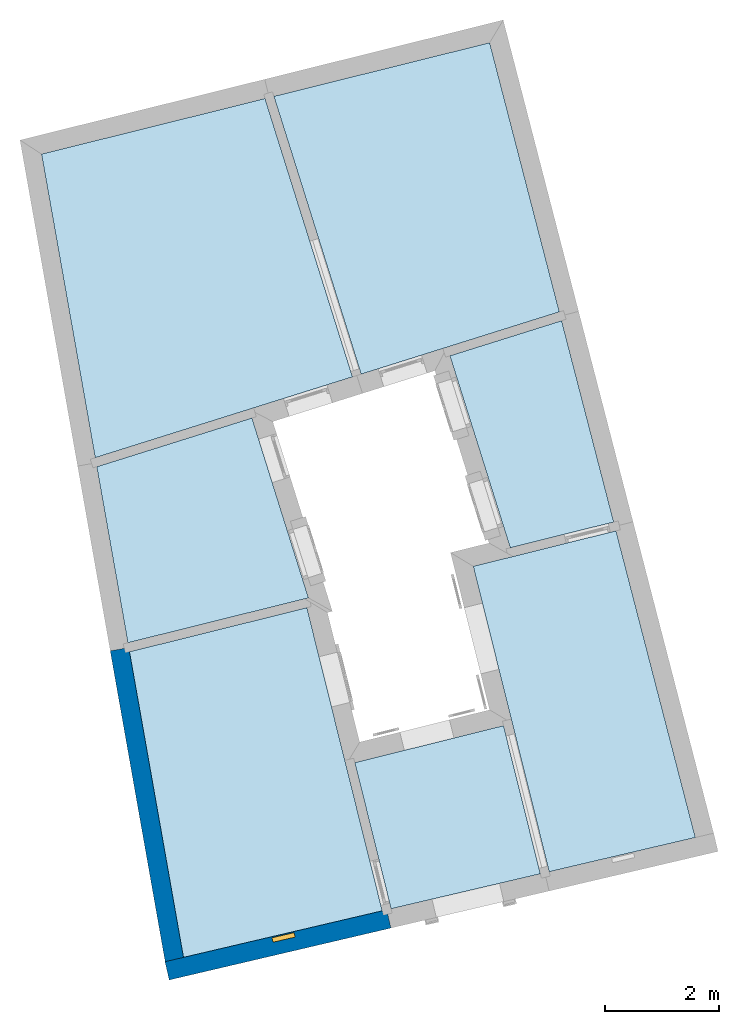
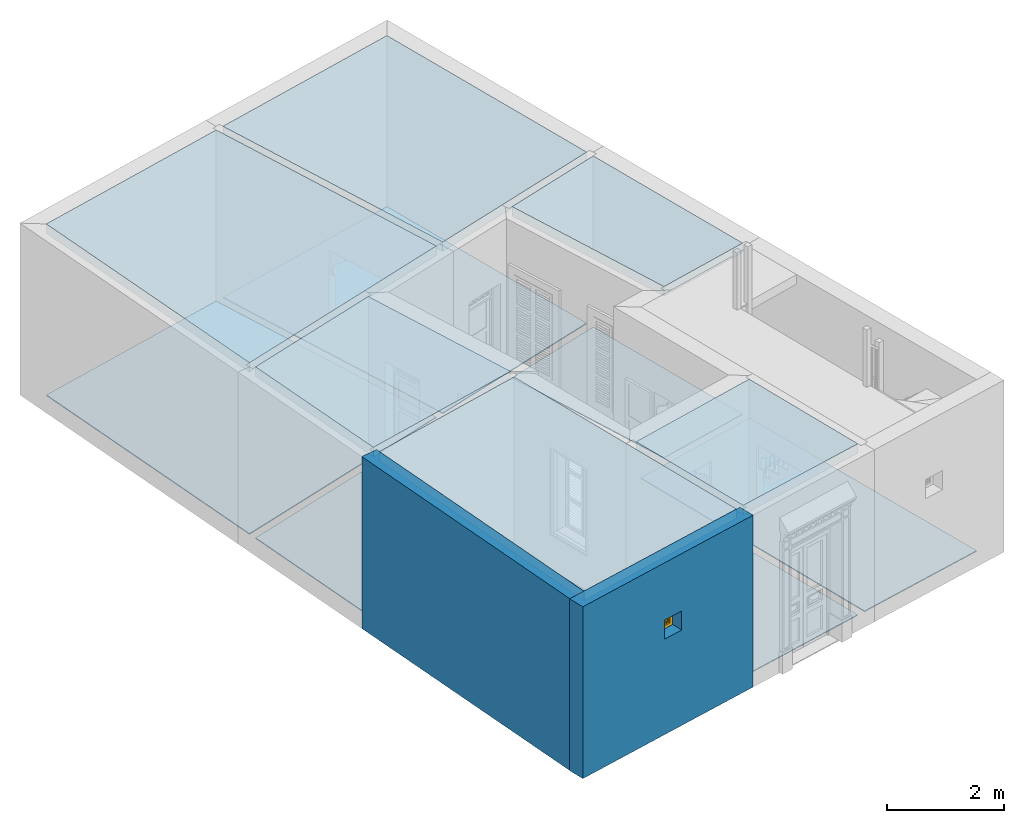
# One storey, part 1 of 14: 13 slabs, 2 walls, 1 window, 1 opening.
"""IFC4 building model written with IfcOpenShell, lengths in metres."""

import ifcopenshell
import ifcopenshell.guid

model = None  # the IFC model being written
_history = None  # IfcOwnerHistory: only IFC2X3 demands one
_inside = {}  # id of a spatial element -> (the spatial element, [elements in it])
_under = {}  # id of a project, library or spatial element -> (it, [spatial elements below it])
_declared = {}  # id of a project -> (the project, [libraries it declares])
_typed = {}  # id of a type object -> (the type object, [elements of that type])
_made_of = {}  # id of a material, layer set ... -> (it, [elements and type objects made of it])


def new_model(schema):
    """Start an empty IFC model of exactly this schema.

    Asked for "IFC4X3", IfcOpenShell would pick the latest addendum, in which some entities
    have other attributes; the version numbers below select the first issue.
    IFC2X3 requires an IfcOwnerHistory on every rooted entity: one is made here for all.
    """
    global model, _history
    if schema == "IFC4X3":
        model = ifcopenshell.file(schema_version=(4, 3, 0, 0))
    else:
        model = ifcopenshell.file(schema=schema)
    _inside.clear()
    _under.clear()
    _declared.clear()
    _typed.clear()
    _made_of.clear()
    _history = None
    if model.schema == "IFC2X3":
        org = make("IfcOrganization", Name="unknown")
        user = make(
            "IfcPersonAndOrganization",
            ThePerson=make("IfcPerson", FamilyName="unknown"),
            TheOrganization=org,
        )
        app = make(
            "IfcApplication",
            ApplicationDeveloper=org,
            Version="unknown",
            ApplicationFullName="unknown",
            ApplicationIdentifier="unknown",
        )
        _history = make(
            "IfcOwnerHistory",
            OwningUser=user,
            OwningApplication=app,
            ChangeAction="ADDED",
            CreationDate=0,
        )
    return model


def make(cls, **values):
    """One entity of the class cls with the attributes given. An attribute that is None is left unset."""
    return model.create_entity(
        cls, **{name: value for name, value in values.items() if value is not None}
    )


def rooted(cls, **values):
    """An entity with a GlobalId (a new one), such as an element, a storey or a relation."""
    return make(cls, GlobalId=ifcopenshell.guid.new(), OwnerHistory=_history, **values)


def si_unit(unit_type, name, prefix=None):
    """IfcSIUnit, for example si_unit("LENGTHUNIT", "METRE", prefix="MILLI")."""
    return make("IfcSIUnit", UnitType=unit_type, Prefix=prefix, Name=name)


def assignment(units):
    """IfcUnitAssignment: the units of a project."""
    return None if units is None else make("IfcUnitAssignment", Units=units)


def point(xyz):
    """IfcCartesianPoint."""
    return None if xyz is None else make("IfcCartesianPoint", Coordinates=xyz)


def direction(xyz):
    """IfcDirection."""
    return None if xyz is None else make("IfcDirection", DirectionRatios=xyz)


def frame(location, z_axis=None, x_axis=None):
    """IfcAxis2Placement3D, a coordinate frame: its origin and axes. An axis left out is left unset."""
    return make(
        "IfcAxis2Placement3D",
        Location=point(location),
        Axis=direction(z_axis),
        RefDirection=direction(x_axis),
    )


def origin():
    """The frame at (0, 0, 0) with its axes left unset."""
    return frame((0.0, 0.0, 0.0))


def origin_with_axes():
    """The frame at (0, 0, 0) with the z axis (0, 0, 1) and the x axis (1, 0, 0) written out."""
    return frame((0.0, 0.0, 0.0), z_axis=(0.0, 0.0, 1.0), x_axis=(1.0, 0.0, 0.0))


def place(relative_to, where):
    """IfcLocalPlacement: puts the frame where relative to a parent placement (None: the world)."""
    return make(
        "IfcLocalPlacement", PlacementRelTo=relative_to, RelativePlacement=where
    )


def context(
    kind, dimensions, precision=None, world=None, true_north=None, identifier=None
):
    """IfcGeometricRepresentationContext, for example the 3D "Model" context."""
    return make(
        "IfcGeometricRepresentationContext",
        ContextIdentifier=identifier,
        ContextType=kind,
        CoordinateSpaceDimension=dimensions,
        Precision=precision,
        WorldCoordinateSystem=world,
        TrueNorth=true_north,
    )


def subcontext(parent, identifier, kind, view, scale=None):
    """IfcGeometricRepresentationSubContext, for example "Body" below "Model"."""
    return make(
        "IfcGeometricRepresentationSubContext",
        ContextIdentifier=identifier,
        ContextType=kind,
        ParentContext=parent,
        TargetScale=scale,
        TargetView=view,
    )


def project(units=None, contexts=None):
    """IfcProject with its units and contexts."""
    return rooted(
        "IfcProject",
        Name="project",
        RepresentationContexts=contexts,
        UnitsInContext=assignment(units),
    )


def spatial(cls, under=None, at=None, **own):
    """A site, building, storey or space (cls), placed at a placement, below another one or the project."""
    s = rooted(cls, ObjectPlacement=at, **own)
    if under is not None:
        _under.setdefault(under.id(), (under, []))[1].append(s)
    return s


def polyline(points):
    """IfcPolyline through the points."""
    return make("IfcPolyline", Points=[point(p) for p in points])


def outline(outer, holes=None, kind="AREA"):
    """IfcArbitraryClosedProfileDef: a profile drawn as a closed curve; with holes, ...WithVoids."""
    if holes is None:
        return make("IfcArbitraryClosedProfileDef", ProfileType=kind, OuterCurve=outer)
    return make(
        "IfcArbitraryProfileDefWithVoids",
        ProfileType=kind,
        OuterCurve=outer,
        InnerCurves=holes,
    )


def extrude(swept, where, along, depth):
    """IfcExtrudedAreaSolid: the profile swept, set in the frame where, extruded along a direction by depth."""
    return make(
        "IfcExtrudedAreaSolid",
        SweptArea=swept,
        Position=where,
        ExtrudedDirection=direction(along),
        Depth=depth,
    )


def faces_of(points, faces, orient=None, outer=None):
    """IfcFace entities. A face is a list of loops; a loop is a list of indices into points, from 0.

    orient and outer hold one flag for each loop. By default every Orientation is true, the
    first loop of a face is its IfcFaceOuterBound and the others are IfcFaceBound.
    """
    made = []
    for i, loops in enumerate(faces):
        bounds = []
        for j, loop in enumerate(loops):
            is_outer = j == 0 if outer is None else outer[i][j]
            bounds.append(
                make(
                    "IfcFaceOuterBound" if is_outer else "IfcFaceBound",
                    Bound=make("IfcPolyLoop", Polygon=[points[k] for k in loop]),
                    Orientation=True if orient is None else orient[i][j],
                )
            )
        made.append(make("IfcFace", Bounds=bounds))
    return made


def faceted_brep(points, faces, orient=None, outer=None, voids=None):
    """IfcFacetedBrep: a solid bounded by flat faces; with voids (closed shells), ...WithVoids."""
    shared = [point(p) for p in points]
    hull = make("IfcClosedShell", CfsFaces=faces_of(shared, faces, orient, outer))
    if voids is None:
        return make("IfcFacetedBrep", Outer=hull)
    return make(
        "IfcFacetedBrepWithVoids",
        Outer=hull,
        Voids=[
            make(cls, CfsFaces=faces_of(shared, fs, o, b)) for cls, fs, o, b in voids
        ],
    )


def shape(context_of_items, identifier, shape_type, items):
    """IfcShapeRepresentation: the items that make up one representation, for example the "Body"."""
    return make(
        "IfcShapeRepresentation",
        ContextOfItems=context_of_items,
        RepresentationIdentifier=identifier,
        RepresentationType=shape_type,
        Items=items,
    )


def source(mapping_origin, context_of_items, identifier, shape_type, items):
    """IfcRepresentationMap: a shape defined once, which mapped items show again and again."""
    return make(
        "IfcRepresentationMap",
        MappingOrigin=mapping_origin,
        MappedRepresentation=shape(context_of_items, identifier, shape_type, items),
    )


def transform(
    local_origin,
    x_axis=None,
    y_axis=None,
    z_axis=None,
    scale=None,
    scale2=None,
    scale3=None,
    uniform=True,
):
    """IfcCartesianTransformationOperator3D, or its non-uniform kind. x_axis, y_axis, z_axis: its Axis1, 2, 3."""
    if uniform:
        return make(
            "IfcCartesianTransformationOperator3D",
            Axis1=direction(x_axis),
            Axis2=direction(y_axis),
            LocalOrigin=point(local_origin),
            Scale=scale,
            Axis3=direction(z_axis),
        )
    return make(
        "IfcCartesianTransformationOperator3DnonUniform",
        Axis1=direction(x_axis),
        Axis2=direction(y_axis),
        LocalOrigin=point(local_origin),
        Scale=scale,
        Axis3=direction(z_axis),
        Scale2=scale2,
        Scale3=scale3,
    )


def mapped(mapping_source, mapping_target):
    """IfcMappedItem: shows the shape of a source again, moved by a transform."""
    return make(
        "IfcMappedItem", MappingSource=mapping_source, MappingTarget=mapping_target
    )


def material(Name=None, Category=None):
    """IfcMaterial."""
    return make("IfcMaterial", Name=Name, Category=Category)


def layer(
    of_material, thickness, ventilated=None, Name=None, Category=None, Priority=None
):
    """IfcMaterialLayer: one layer of a wall or slab, of a material (None: an air gap)."""
    return make(
        "IfcMaterialLayer",
        Material=of_material,
        LayerThickness=thickness,
        IsVentilated=ventilated,
        Name=Name,
        Category=Category,
        Priority=Priority,
    )


def layer_set(layers, Name=None):
    """IfcMaterialLayerSet."""
    return make("IfcMaterialLayerSet", MaterialLayers=layers, LayerSetName=Name)


def layer_usage(for_layer_set, set_direction, sense, offset, extent=None):
    """IfcMaterialLayerSetUsage: how a layer set lies in its element."""
    return make(
        "IfcMaterialLayerSetUsage",
        ForLayerSet=for_layer_set,
        LayerSetDirection=set_direction,
        DirectionSense=sense,
        OffsetFromReferenceLine=offset,
        ReferenceExtent=extent,
    )


def made_of(thing, what):
    """Note that an element or type object is made of a material, layer set ...; save() writes the relation."""
    if what is not None:
        _made_of.setdefault(what.id(), (what, []))[1].append(thing)
    return thing


def type_object(cls, material=None, **own):
    """A type object (cls), such as IfcWallType, which elements share."""
    return made_of(rooted(cls, **own), material)


def type_shapes(of_type, sources):
    """Give a type object the sources (RepresentationMaps) that its elements show as mapped items."""
    of_type.RepresentationMaps = sources


def element(
    cls,
    number,
    at=None,
    inside=None,
    cuts=None,
    type_object=None,
    material=None,
    context=None,
    identifier="Body",
    shape_type=None,
    held_by="IfcProductDefinitionShape",
    body=None,
    shapes=None,
    **own,
):
    """One element of the class cls, such as IfcWall. Its Tag is "e" and its number.

    at: its placement. inside: the storey or other place that contains it. cuts: it is an
    opening in that element (IfcRelVoidsElement). A single representation is given by context,
    identifier, shape_type and body (its items); several are given by shapes. held_by: the class
    of the entity that holds the representations. save() writes the other relations.
    """
    e = rooted(cls, Tag="e%d" % number, ObjectPlacement=at, **own)
    if body is not None:
        shapes = [shape(context, identifier, shape_type, body)]
    if shapes is not None:
        e.Representation = make(held_by, Representations=shapes)
    if inside is not None:
        _inside.setdefault(inside.id(), (inside, []))[1].append(e)
    if cuts is not None:
        rooted(
            "IfcRelVoidsElement", RelatingBuildingElement=cuts, RelatedOpeningElement=e
        )
    if type_object is not None:
        _typed.setdefault(type_object.id(), (type_object, []))[1].append(e)
    return made_of(e, material)


def fill(opening, filler):
    """IfcRelFillsElement: the door or window that sits in an opening."""
    return rooted(
        "IfcRelFillsElement",
        RelatingOpeningElement=opening,
        RelatedBuildingElement=filler,
    )


def aggregate(whole, parts):
    """IfcRelAggregates: a whole, such as a stair, and the parts it consists of."""
    return rooted("IfcRelAggregates", RelatingObject=whole, RelatedObjects=parts)


def save(model, path):
    """Write the relations noted so far, then the file.

    IfcRelAggregates (storeys below a building ...), IfcRelContainedInSpatialStructure (elements
    in a storey), IfcRelDefinesByType, IfcRelAssociatesMaterial and IfcRelDeclares: one each for
    every whole, place, type object, material and project.
    """
    for whole, parts in _under.values():
        aggregate(whole, parts)
    for where, things in _inside.values():
        rooted(
            "IfcRelContainedInSpatialStructure",
            RelatedElements=things,
            RelatingStructure=where,
        )
    for kind, things in _typed.values():
        rooted("IfcRelDefinesByType", RelatedObjects=things, RelatingType=kind)
    for what, things in _made_of.values():
        rooted("IfcRelAssociatesMaterial", RelatedObjects=things, RelatingMaterial=what)
    for by, libraries in _declared.values():
        rooted("IfcRelDeclares", RelatingContext=by, RelatedDefinitions=libraries)
    model.write(path)


model = new_model("IFC4")

# Units and contexts
model_context = context("Model", 3, world=origin_with_axes())
body_context = subcontext(model_context, "Body", "Model", "MODEL_VIEW")
ifc_project = project(units=[si_unit("PLANEANGLEUNIT", "RADIAN"), si_unit("MASSUNIT", "GRAM", prefix="KILO"), si_unit("FORCEUNIT", "NEWTON", prefix="KILO"), si_unit("LENGTHUNIT", "METRE"), si_unit("AREAUNIT", "SQUARE_METRE"), si_unit("VOLUMEUNIT", "CUBIC_METRE")], contexts=[model_context, model_context])

# Site, building, storey
site_placement = place(None, origin_with_axes())
site = spatial("IfcSite", under=ifc_project, at=site_placement, Name="Site plot-0", CompositionType="ELEMENT")
building_placement = place(None, origin_with_axes())
building = spatial("IfcBuilding", under=site, at=building_placement, Name="Building plot-0", CompositionType="ELEMENT")
storey_placement = place(None, origin_with_axes())
storey = spatial("IfcBuildingStorey", under=building, at=storey_placement, Name="plot-0 0", CompositionType="ELEMENT", Elevation=0.0)

# Slabs
slab_1_placement = place(storey_placement, frame((1.75428280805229, -0.859173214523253, 3.4)))
element("IfcSlab", 1, at=slab_1_placement, inside=storey, Name="My Slab", ObjectType="Slab", PredefinedType="FLOOR", context=body_context, shape_type="SweptSolid", body=[
    extrude(outline(polyline([(0.0, 0.0), (3.49456834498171, 0.818452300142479), (2.16978365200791, 6.14844013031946), (-0.949484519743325, 5.37313653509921), (0.0, 0.0)])), origin_with_axes(), (0.0, 0.0, 1.0), 0.2),
])
slab_2_placement = place(storey_placement, frame((1.75428280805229, -0.859173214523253, 0.0)))
element("IfcSlab", 2, at=slab_2_placement, inside=storey, Name="My Slab", ObjectType="Slab", PredefinedType="FLOOR", context=body_context, shape_type="SweptSolid", body=[
    extrude(outline(polyline([(0.0, 0.0), (3.49456834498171, 0.818452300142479), (2.16978365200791, 6.14844013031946), (-0.949484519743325, 5.37313653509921), (0.0, 0.0)])), origin_with_axes(), (0.0, 0.0, 1.0), 0.02),
])
slab_3_placement = place(storey_placement, frame((8.02813918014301, 0.610207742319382, 3.4)))
element("IfcSlab", 3, at=slab_3_placement, inside=storey, Name="My Slab", ObjectType="Slab", PredefinedType="FLOOR", context=body_context, shape_type="SweptSolid", body=[
    extrude(outline(polyline([(0.0, 0.0), (-0.647274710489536, 2.60417134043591), (-3.26195356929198, 1.95428495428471), (-2.62348928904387, -0.614439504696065), (0.0, 0.0)])), origin_with_axes(), (0.0, 0.0, 1.0), 0.2),
])
slab_4_placement = place(storey_placement, frame((8.02813918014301, 0.610207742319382, 0.0)))
element("IfcSlab", 4, at=slab_4_placement, inside=storey, Name="My Slab", ObjectType="Slab", PredefinedType="FLOOR", context=body_context, shape_type="SweptSolid", body=[
    extrude(outline(polyline([(0.0, 0.0), (-0.647274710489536, 2.60417134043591), (-3.26195356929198, 1.95428495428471), (-2.62348928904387, -0.614439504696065), (0.0, 0.0)])), origin_with_axes(), (0.0, 0.0, 1.0), 0.02),
])
slab_5_placement = place(storey_placement, frame((0.776890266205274, 4.67189492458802, 3.4)))
element("IfcSlab", 5, at=slab_5_placement, inside=storey, Name="My Slab", ObjectType="Slab", PredefinedType="FLOOR", context=body_context, shape_type="SweptSolid", body=[
    extrude(outline(polyline([(0.0, 0.0), (3.17481182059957, 0.789109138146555), (2.18109999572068, 3.95210489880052), (-0.546924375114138, 3.0950471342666), (0.0, 0.0)])), origin_with_axes(), (0.0, 0.0, 1.0), 0.2),
])
slab_6_placement = place(storey_placement, frame((0.776890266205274, 4.67189492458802, 0.0)))
element("IfcSlab", 6, at=slab_6_placement, inside=storey, Name="My Slab", ObjectType="Slab", PredefinedType="FLOOR", context=body_context, shape_type="SweptSolid", body=[
    extrude(outline(polyline([(0.0, 0.0), (3.17481182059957, 0.789109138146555), (2.18109999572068, 3.95210489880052), (-0.546924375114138, 3.0950471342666), (0.0, 0.0)])), origin_with_axes(), (0.0, 0.0, 1.0), 0.02),
])
slab_7_placement = place(storey_placement, frame((-0.74142642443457, 13.2640548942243, 3.4)))
element("IfcSlab", 7, at=slab_7_placement, inside=storey, Name="My Slab", ObjectType="Slab", PredefinedType="FLOOR", context=body_context, shape_type="SweptSolid", body=[
    extrude(outline(polyline([(0.0, 0.0), (0.943315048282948, -5.33822347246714), (5.4668911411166, -3.9170609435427), (3.9294367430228, 0.976673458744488), (0.0, 0.0)])), origin_with_axes(), (0.0, 0.0, 1.0), 0.2),
])
slab_8_placement = place(storey_placement, frame((-0.74142642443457, 13.2640548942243, 0.0)))
element("IfcSlab", 8, at=slab_8_placement, inside=storey, Name="My Slab", ObjectType="Slab", PredefinedType="FLOOR", context=body_context, shape_type="SweptSolid", body=[
    extrude(outline(polyline([(0.0, 0.0), (0.943315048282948, -5.33822347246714), (5.4668911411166, -3.9170609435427), (3.9294367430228, 0.976673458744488), (0.0, 0.0)])), origin_with_axes(), (0.0, 0.0, 1.0), 0.02),
])
slab_9_placement = place(storey_placement, frame((8.4025652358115, 10.3345106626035, 3.4)))
element("IfcSlab", 9, at=slab_9_placement, inside=storey, Name="My Slab", ObjectType="Slab", PredefinedType="FLOOR", context=body_context, shape_type="SweptSolid", body=[
    extrude(outline(polyline([(0.0, 0.0), (-1.96382218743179, -0.616969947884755), (-0.903554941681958, -3.99181235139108), (0.915950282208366, -3.5395687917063), (0.0, 0.0)])), origin_with_axes(), (0.0, 0.0, 1.0), 0.2),
])
slab_10_placement = place(storey_placement, frame((8.4025652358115, 10.3345106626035, 0.0)))
element("IfcSlab", 10, at=slab_10_placement, inside=storey, Name="My Slab", ObjectType="Slab", PredefinedType="FLOOR", context=body_context, shape_type="SweptSolid", body=[
    extrude(outline(polyline([(0.0, 0.0), (-1.96382218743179, -0.616969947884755), (-0.903554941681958, -3.99181235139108), (0.915950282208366, -3.5395687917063), (0.0, 0.0)])), origin_with_axes(), (0.0, 0.0, 1.0), 0.02),
])
slab_11_placement = place(storey_placement, frame((7.13769499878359, 15.2224344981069, 3.4)))
element("IfcSlab", 11, at=slab_11_placement, inside=storey, Name="My Slab", ObjectType="Slab", PredefinedType="FLOOR", context=body_context, shape_type="SweptSolid", body=[
    extrude(outline(polyline([(0.0, 0.0), (-3.79412183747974, -0.943040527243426), (-2.25958614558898, -5.8274846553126), (1.22473408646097, -4.73282298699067), (0.0, 0.0)])), origin_with_axes(), (0.0, 0.0, 1.0), 0.2),
])
slab_12_placement = place(storey_placement, frame((7.13769499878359, 15.2224344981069, 0.0)))
element("IfcSlab", 12, at=slab_12_placement, inside=storey, Name="My Slab", ObjectType="Slab", PredefinedType="FLOOR", context=body_context, shape_type="SweptSolid", body=[
    extrude(outline(polyline([(0.0, 0.0), (-3.79412183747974, -0.943040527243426), (-2.25958614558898, -5.8274846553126), (1.22473408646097, -4.73282298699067), (0.0, 0.0)])), origin_with_axes(), (0.0, 0.0, 1.0), 0.02),
])
slab_13_placement = place(storey_placement, frame((9.35860095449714, 6.64003700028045, 0.0)))
element("IfcSlab", 13, at=slab_13_placement, inside=storey, Name="My Slab", ObjectType="Slab", PredefinedType="FLOOR", context=body_context, shape_type="SweptSolid", body=[
    extrude(outline(polyline([(0.0, 0.0), (-2.5093045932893, -0.623695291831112), (-1.17466303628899, -5.99334010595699), (1.39517420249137, -5.39146628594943), (0.0, 0.0)])), origin_with_axes(), (0.0, 0.0, 1.0), 0.02),
])

# Wall, opening, window
ifc_material_1 = material(Name="Masonry")
ifc_layer_1 = layer(ifc_material_1, 0.33, ventilated=False)
ifc_layer_set_1 = layer_set([ifc_layer_1], Name="exterior_0.08_0.25")
ifc_layer_usage_1 = layer_usage(ifc_layer_set_1, "AXIS2", "POSITIVE", -0.25)
wall_type_1 = type_object("IfcWallType", Name="exterior_0.08_0.25", PredefinedType="SOLIDWALL", material=ifc_layer_set_1)
wall_1_placement = place(storey_placement, frame((1.69021424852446, -0.956343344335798, 0.0), z_axis=(0.0, 0.0, 1.0), x_axis=(0.973652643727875, 0.228036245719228, 0.0)))
wall_1 = element("IfcWall", 14, at=wall_1_placement, inside=storey, type_object=wall_type_1, material=ifc_layer_usage_1, Name="exterior", context=body_context, shape_type="SweptSolid", body=[
    extrude(outline(polyline([(-0.25, 0.08), (-0.25, -0.25), (3.75476323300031, -0.25), (3.75476323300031, 0.08), (-0.25, 0.08)])), origin_with_axes(), (0.0, 0.0, 1.0), 3.6),
])
opening_placement = place(wall_1_placement, frame((1.67738161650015, 0.0, 2.0)))
opening = element("IfcOpeningElement", 15, at=opening_placement, cuts=wall_1, Name="My Opening", ObjectType="Opening", context=body_context, shape_type="SweptSolid", body=[
    extrude(outline(polyline([(0.0, -0.27), (0.4, -0.27), (0.4, 1.1), (-2.22044604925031e-16, 1.1), (0.0, -0.27)])), origin_with_axes(), (0.0, 0.0, 1.0), 0.4),
])
window_type = type_object("IfcWindowType", Name="barred_window", PartitioningType="DOUBLE_PANEL_HORIZONTAL", PredefinedType="NOTDEFINED")
shared_shape = source(origin(), body_context, "Body", "Brep", [
    faceted_brep([(0.4, 0.25, 0.4), (0.0, 0.25, 0.4), (0.06, 0.25, 0.34), (0.34, 0.25, 0.34), (0.06, 0.33, 0.34), (0.34, 0.33, 0.34), (0.34, 0.25, 0.06), (0.4, 0.25, 0.0), (0.4, 0.33, 0.4), (0.0, 0.33, 0.4), (0.0, 0.25, 0.0), (0.06, 0.25, 0.06), (0.06, 0.33, 0.06), (0.34, 0.33, 0.06), (0.4, 0.33, 0.0), (0.0, 0.33, 0.0), (0.136152, 0.28, 0.08), (0.08, 0.28, 0.08), (0.06, 0.28, 0.06), (0.136152, 0.28, 0.06), (0.136152, 0.29, 0.08), (0.08, 0.29, 0.08), (0.06, 0.28, 0.136152), (0.08, 0.28, 0.136152), (0.06, 0.29, 0.06), (0.136152, 0.29, 0.06), (0.170294, 0.28, 0.08), (0.170294, 0.28, 0.06), (0.136152, 0.28, 0.136152), (0.136152, 0.29, 0.136152), (0.08, 0.29, 0.136152), (0.06, 0.29, 0.136152), (0.08, 0.28, 0.170294), (0.06, 0.28, 0.170294), (0.170294, 0.29, 0.06), (0.229706, 0.28, 0.08), (0.229706, 0.28, 0.06), (0.156152, 0.28, 0.094142), (0.156152, 0.28, 0.136152), (0.185858, 0.28, 0.123848), (0.185858, 0.29, 0.123848), (0.156152, 0.29, 0.094142), (0.156152, 0.29, 0.136152), (0.229706, 0.29, 0.08), (0.170294, 0.29, 0.08), (0.2, 0.28, 0.109706), (0.2, 0.29, 0.109706), (0.06, 0.29, 0.170294), (0.094142, 0.28, 0.156152), (0.08, 0.28, 0.229706), (0.06, 0.28, 0.229706), (0.229706, 0.29, 0.06), (0.263848, 0.28, 0.08), (0.263848, 0.28, 0.06), (0.156152, 0.28, 0.156152), (0.136152, 0.28, 0.156152), (0.173553, 0.28, 0.136152), (0.173553, 0.29, 0.136152), (0.156152, 0.29, 0.156152), (0.136152, 0.29, 0.156152), (0.094142, 0.29, 0.156152), (0.08, 0.29, 0.170294), (0.06, 0.29, 0.229706), (0.123848, 0.28, 0.185858), (0.109706, 0.28, 0.2), (0.08, 0.29, 0.229706), (0.08, 0.28, 0.263848), (0.06, 0.28, 0.263848), (0.263848, 0.29, 0.06), (0.2, 0.28, 0.13799), (0.214142, 0.28, 0.123848), (0.34, 0.28, 0.06), (0.32, 0.28, 0.08), (0.181838, 0.28, 0.156152), (0.136152, 0.28, 0.173553), (0.156152, 0.28, 0.181838), (0.181838, 0.29, 0.156152), (0.2, 0.29, 0.13799), (0.214142, 0.29, 0.123848), (0.136152, 0.29, 0.173553), (0.156152, 0.29, 0.181838), (0.243848, 0.28, 0.094142), (0.243848, 0.29, 0.094142), (0.263848, 0.28, 0.136152), (0.263848, 0.29, 0.08), (0.263848, 0.29, 0.136152), (0.32, 0.29, 0.08), (0.243848, 0.28, 0.136152), (0.243848, 0.29, 0.136152), (0.06, 0.29, 0.263848), (0.123848, 0.29, 0.185858), (0.13799, 0.28, 0.2), (0.123848, 0.28, 0.214142), (0.109706, 0.29, 0.2), (0.094142, 0.28, 0.243848), (0.08, 0.28, 0.32), (0.06, 0.28, 0.34), (0.34, 0.29, 0.06), (0.218162, 0.28, 0.156152), (0.226447, 0.28, 0.136152), (0.34, 0.28, 0.229706), (0.32, 0.28, 0.229706), (0.32, 0.28, 0.170294), (0.32, 0.28, 0.136152), (0.218162, 0.29, 0.156152), (0.226447, 0.29, 0.136152), (0.13799, 0.29, 0.2), (0.32, 0.29, 0.136152), (0.08, 0.29, 0.263848), (0.06, 0.29, 0.34), (0.136152, 0.28, 0.226447), (0.156152, 0.28, 0.218162), (0.094142, 0.29, 0.243848), (0.123848, 0.29, 0.214142), (0.136152, 0.28, 0.243848), (0.136152, 0.28, 0.263848), (0.08, 0.29, 0.32), (0.136152, 0.28, 0.34), (0.136152, 0.28, 0.32), (0.34, 0.29, 0.229706), (0.243848, 0.28, 0.156152), (0.263848, 0.28, 0.156152), (0.34, 0.28, 0.263848), (0.32, 0.28, 0.263848), (0.32, 0.29, 0.229706), (0.32, 0.29, 0.170294), (0.290294, 0.28, 0.2), (0.276152, 0.28, 0.185858), (0.305858, 0.28, 0.156152), (0.243848, 0.29, 0.156152), (0.263848, 0.29, 0.156152), (0.305858, 0.29, 0.156152), (0.276152, 0.29, 0.185858), (0.290294, 0.29, 0.2), (0.136152, 0.29, 0.34), (0.136152, 0.29, 0.226447), (0.156152, 0.29, 0.218162), (0.156152, 0.28, 0.243848), (0.136152, 0.29, 0.243848), (0.156152, 0.28, 0.263848), (0.136152, 0.29, 0.263848), (0.136152, 0.29, 0.32), (0.170294, 0.28, 0.32), (0.170294, 0.28, 0.34), (0.34, 0.29, 0.263848), (0.243848, 0.28, 0.181838), (0.263848, 0.28, 0.173553), (0.34, 0.28, 0.34), (0.32, 0.28, 0.32), (0.305858, 0.28, 0.243848), (0.276152, 0.28, 0.214142), (0.26201, 0.28, 0.2), (0.243848, 0.29, 0.181838), (0.263848, 0.29, 0.173553), (0.26201, 0.29, 0.2), (0.276152, 0.29, 0.214142), (0.32, 0.29, 0.263848), (0.170294, 0.29, 0.34), (0.156152, 0.29, 0.243848), (0.173553, 0.28, 0.263848), (0.181838, 0.28, 0.243848), (0.156152, 0.28, 0.305858), (0.229706, 0.28, 0.32), (0.229706, 0.28, 0.34), (0.34, 0.29, 0.34), (0.263848, 0.28, 0.34), (0.263848, 0.28, 0.32), (0.32, 0.29, 0.32), (0.263848, 0.28, 0.263848), (0.263848, 0.28, 0.243848), (0.305858, 0.29, 0.243848), (0.263848, 0.28, 0.226447), (0.243848, 0.28, 0.218162), (0.243848, 0.29, 0.218162), (0.263848, 0.29, 0.226447), (0.156152, 0.29, 0.263848), (0.170294, 0.29, 0.32), (0.229706, 0.29, 0.34), (0.181838, 0.29, 0.243848), (0.173553, 0.29, 0.263848), (0.185858, 0.28, 0.276152), (0.2, 0.28, 0.26201), (0.156152, 0.29, 0.305858), (0.229706, 0.29, 0.32), (0.263848, 0.29, 0.34), (0.263848, 0.29, 0.32), (0.263848, 0.29, 0.263848), (0.243848, 0.28, 0.243848), (0.243848, 0.28, 0.263848), (0.263848, 0.29, 0.243848), (0.243848, 0.29, 0.243848), (0.2, 0.29, 0.26201), (0.185858, 0.29, 0.276152), (0.214142, 0.28, 0.276152), (0.218162, 0.28, 0.243848), (0.226447, 0.28, 0.263848), (0.243848, 0.28, 0.305858), (0.2, 0.28, 0.290294), (0.2, 0.29, 0.290294), (0.243848, 0.29, 0.263848), (0.218162, 0.29, 0.243848), (0.214142, 0.29, 0.276152), (0.226447, 0.29, 0.263848), (0.243848, 0.29, 0.305858)], [[[0, 1, 2, 3]], [[3, 2, 4, 5]], [[3, 6, 7, 0]], [[1, 0, 8, 9]], [[1, 10, 11, 2]], [[2, 11, 12, 4]], [[9, 8, 5, 4]], [[6, 3, 5, 13]], [[6, 11, 10, 7]], [[0, 7, 14, 8]], [[10, 1, 9, 15]], [[11, 6, 13, 12]], [[4, 12, 15, 9]], [[8, 14, 13, 5]], [[7, 10, 15, 14]], [[12, 13, 14, 15]], [[16, 17, 18, 19]], [[17, 16, 20, 21]], [[22, 18, 17, 23]], [[19, 18, 24, 25]], [[26, 16, 19, 27]], [[16, 28, 29, 20]], [[21, 20, 25, 24]], [[23, 17, 21, 30]], [[18, 22, 31, 24]], [[23, 32, 33, 22]], [[27, 19, 25, 34]], [[35, 26, 27, 36]], [[28, 16, 37, 38]], [[37, 39, 40, 41]], [[38, 37, 41, 42]], [[20, 29, 42, 41]], [[26, 35, 43, 44]], [[45, 26, 44, 46]], [[20, 44, 34, 25]], [[28, 23, 30, 29]], [[24, 31, 30, 21]], [[22, 33, 47, 31]], [[48, 32, 23]], [[32, 49, 50, 33]], [[36, 27, 34, 51]], [[39, 37, 26, 45]], [[52, 35, 36, 53]], [[38, 54, 55, 28]], [[39, 56, 57, 40]], [[41, 40, 46, 44]], [[56, 38, 42, 57]], [[58, 42, 29, 59]], [[35, 45, 46, 43]], [[44, 43, 51, 34]], [[23, 28, 55, 48]], [[29, 30, 60, 59]], [[61, 30, 31, 47]], [[33, 50, 62, 47]], [[48, 63, 64, 32]], [[49, 32, 61, 65]], [[49, 66, 67, 50]], [[53, 36, 51, 68]], [[69, 39, 45, 70]], [[53, 71, 72, 52]], [[73, 54, 38, 56]], [[74, 55, 54, 75]], [[56, 39, 69, 73]], [[40, 57, 76, 77]], [[40, 77, 78, 46]], [[58, 76, 57, 42]], [[59, 79, 80, 58]], [[45, 35, 81, 70]], [[43, 46, 78, 82]], [[83, 52, 84, 85]], [[82, 84, 43]], [[52, 72, 86, 84]], [[43, 84, 68, 51]], [[44, 20, 41]], [[70, 81, 82, 78]], [[81, 87, 88, 82]], [[48, 55, 59, 60]], [[61, 60, 30]], [[65, 61, 47, 62]], [[50, 67, 89, 62]], [[63, 48, 60, 90]], [[63, 91, 92, 64]], [[32, 64, 93, 61]], [[64, 49, 65, 93]], [[94, 66, 49]], [[66, 95, 96, 67]], [[71, 53, 68, 97]], [[98, 69, 70, 99]], [[81, 52, 83, 87]], [[72, 71, 100]], [[100, 101, 102]], [[103, 72, 100]], [[100, 102, 103]], [[54, 73, 76, 58]], [[55, 74, 79, 59]], [[75, 54, 58, 80]], [[63, 74, 75, 91]], [[73, 69, 77, 76]], [[77, 104, 105, 78]], [[79, 90, 106, 80]], [[84, 82, 88, 85]], [[103, 83, 85, 107]], [[72, 103, 107, 86]], [[97, 68, 84, 86]], [[99, 70, 78, 105]], [[87, 99, 105, 88]], [[90, 60, 61, 93]], [[108, 65, 62, 89]], [[67, 96, 109, 89]], [[74, 63, 90, 79]], [[110, 92, 91, 111]], [[49, 64, 92, 94]], [[93, 65, 112, 113]], [[94, 114, 115, 66]], [[95, 66, 108, 116]], [[117, 96, 95, 118]], [[100, 71, 97, 119]], [[69, 98, 104, 77]], [[99, 87, 120, 98]], [[87, 83, 121, 120]], [[101, 100, 122, 123]], [[102, 101, 124, 125]], [[121, 83, 103]], [[103, 102, 126]], [[126, 127, 128]], [[128, 121, 103]], [[103, 126, 128]], [[91, 75, 80, 106]], [[88, 105, 104, 129]], [[106, 90, 93, 113]], [[85, 88, 129, 130]], [[107, 85, 130]], [[131, 132, 133]], [[107, 130, 131]], [[133, 125, 107]], [[107, 131, 133]], [[124, 119, 97]], [[97, 86, 107]], [[107, 125, 124]], [[97, 107, 124]], [[108, 112, 65]], [[116, 108, 89, 109]], [[96, 117, 134, 109]], [[92, 110, 135, 113]], [[111, 91, 106, 136]], [[114, 110, 111, 137]], [[94, 92, 113, 112]], [[114, 94, 112, 138]], [[114, 137, 139, 115]], [[66, 115, 140, 108]], [[118, 95, 116, 141]], [[118, 142, 143, 117]], [[122, 100, 119, 144]], [[98, 120, 129, 104]], [[145, 120, 121, 146]], [[122, 147, 148, 123]], [[123, 149, 101]], [[101, 126, 133, 124]], [[126, 102, 125, 133]], [[127, 126, 150, 151]], [[128, 127, 132, 131]], [[121, 128, 131, 130]], [[113, 135, 136, 106]], [[129, 152, 153, 130]], [[133, 132, 154, 155]], [[119, 124, 156, 144]], [[138, 112, 108, 140]], [[109, 134, 141, 116]], [[117, 143, 157, 134]], [[110, 114, 138, 135]], [[137, 111, 136, 158]], [[159, 139, 137, 160]], [[118, 115, 139, 161]], [[115, 118, 141, 140]], [[161, 142, 118]], [[162, 163, 143, 142]], [[147, 122, 144, 164]], [[120, 145, 152, 129]], [[146, 121, 130, 153]], [[146, 127, 151, 145]], [[147, 165, 166, 148]], [[123, 148, 167, 156]], [[149, 123, 168, 169]], [[149, 150, 126, 101]], [[155, 170, 124, 133]], [[151, 150, 171, 172]], [[127, 146, 153, 132]], [[135, 138, 158, 136]], [[132, 153, 152, 154]], [[155, 154, 173, 174]], [[170, 156, 124]], [[164, 144, 156, 167]], [[158, 138, 140, 175]], [[176, 141, 134, 157]], [[143, 163, 177, 157]], [[160, 137, 158, 178]], [[139, 159, 179, 175]], [[180, 159, 160, 181]], [[161, 139, 175, 182]], [[140, 141, 182, 175]], [[166, 165, 163, 162]], [[162, 142, 176, 183]], [[165, 147, 164, 184]], [[145, 151, 154, 152]], [[148, 166, 185, 167]], [[156, 186, 168, 123]], [[187, 169, 168, 188]], [[149, 169, 189, 170]], [[150, 149, 170, 155]], [[171, 150, 155, 174]], [[171, 169, 187, 172]], [[151, 172, 173, 154]], [[189, 174, 173, 190]], [[156, 170, 189, 186]], [[184, 164, 167, 185]], [[175, 179, 178, 158]], [[176, 182, 141]], [[177, 183, 176, 157]], [[163, 165, 184, 177]], [[181, 160, 178, 191]], [[159, 180, 192, 179]], [[180, 161, 182, 192]], [[193, 181, 194, 195]], [[196, 162, 197, 193]], [[180, 197, 142, 161]], [[197, 180, 181, 193]], [[142, 197, 198, 176]], [[162, 196, 166]], [[35, 52, 81]], [[197, 162, 183, 198]], [[185, 166, 168, 186]], [[196, 188, 168, 166]], [[187, 188, 195, 194]], [[169, 171, 174, 189]], [[172, 187, 190, 173]], [[189, 190, 199, 186]], [[184, 185, 183, 177]], [[179, 192, 191, 178]], [[176, 198, 192, 182]], [[194, 181, 191, 200]], [[191, 192, 198, 201]], [[26, 37, 16]], [[193, 195, 202, 201]], [[196, 193, 201, 203]], [[191, 201, 202, 200]], [[183, 203, 201, 198]], [[188, 196, 203, 199]], [[203, 183, 185]], [[199, 203, 185, 186]], [[195, 188, 199, 202]], [[187, 194, 200, 190]], [[199, 190, 200, 202]]]),
])
type_shapes(window_type, [shared_shape])
window_placement = place(storey_placement, frame((3.38497108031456, -0.836725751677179, 2.0), z_axis=(0.0, 0.0, 1.0), x_axis=(0.38946105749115, 0.0912144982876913, 0.0)))
window = element("IfcWindow", 16, at=window_placement, inside=storey, type_object=window_type, Name="bedroom street window", OverallHeight=0.4, OverallWidth=0.4, context=body_context, shape_type="MappedRepresentation", body=[
    mapped(shared_shape, transform((0.0, 0.0, 0.0), scale=1.0)),
])
fill(opening, window)

# Wall
ifc_material_2 = material(Name="Masonry")
ifc_layer_2 = layer(ifc_material_2, 0.33, ventilated=False)
ifc_layer_set_2 = layer_set([ifc_layer_2], Name="party_0.08_0.25")
ifc_layer_usage_2 = layer_usage(ifc_layer_set_2, "AXIS2", "POSITIVE", -0.25)
wall_type_2 = type_object("IfcWallType", Name="party_0.08_0.25", PredefinedType="SOLIDWALL", material=ifc_layer_set_2)
wall_2_placement = place(storey_placement, frame((0.713022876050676, 4.5735863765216, 0.0), z_axis=(0.0, 0.0, 1.0), x_axis=(0.174013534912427, -0.984743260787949, 0.0)))
element("IfcWall", 17, at=wall_2_placement, inside=storey, type_object=wall_type_2, material=ifc_layer_usage_2, Name="party", context=body_context, shape_type="SweptSolid", body=[
    extrude(outline(polyline([(-3.85899917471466e-16, 0.0800000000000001), (-2.67968859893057e-16, -0.25), (5.61560555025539, -0.25), (5.61560555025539, 0.0800000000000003), (-3.85899917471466e-16, 0.0800000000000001)])), origin_with_axes(), (0.0, 0.0, 1.0), 3.6),
])

save(model, "model.ifc")
